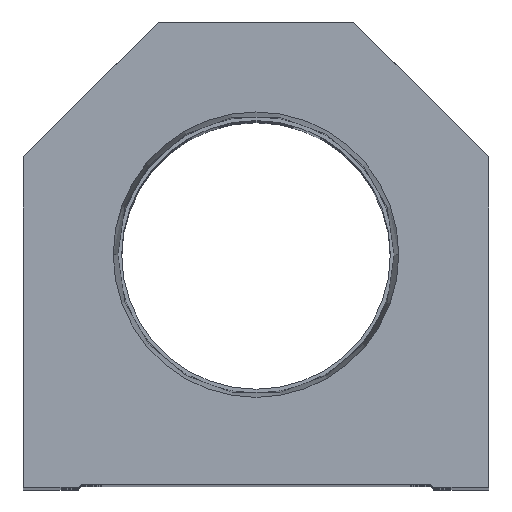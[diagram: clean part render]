
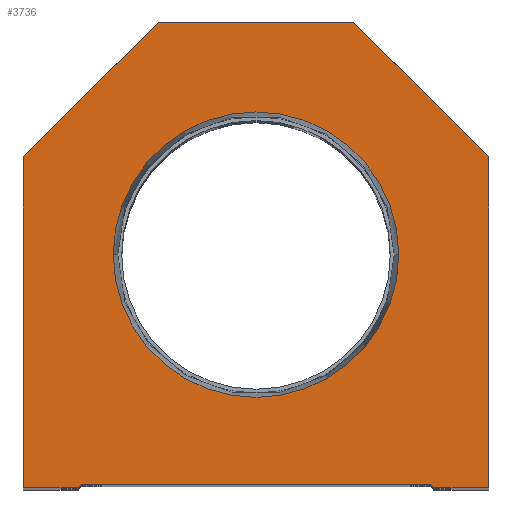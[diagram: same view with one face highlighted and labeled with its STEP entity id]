
A CAD part, top view. The second image highlights one B-rep face of the part: STEP entity #3736.
In plain terms, the highlighted planar face has unit normal (0, 0, 1).
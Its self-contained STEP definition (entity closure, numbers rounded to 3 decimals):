
#83 = DIRECTION ( 'NONE',  ( -0.707, -0.707, 0. ) ) ;
#190 = CARTESIAN_POINT ( 'NONE',  ( -38.1, 54.1, 0. ) ) ;
#312 = VERTEX_POINT ( 'NONE', #13020 ) ;
#553 = ORIENTED_EDGE ( 'NONE', *, *, #2733, .T. ) ;
#598 = VECTOR ( 'NONE', #7609, 1000. ) ;
#730 = CARTESIAN_POINT ( 'NONE',  ( 14.55, 14.55, 0. ) ) ;
#888 = CARTESIAN_POINT ( 'NONE',  ( -38.1, 0., 0. ) ) ;
#1068 = VERTEX_POINT ( 'NONE', #19259 ) ;
#1266 = LINE ( 'NONE', #888, #8260 ) ;
#1469 = VECTOR ( 'NONE', #83, 1000. ) ;
#1580 = VERTEX_POINT ( 'NONE', #6462 ) ;
#1726 = CARTESIAN_POINT ( 'NONE',  ( -14.55, 14.55, 0. ) ) ;
#1828 = ORIENTED_EDGE ( 'NONE', *, *, #2188, .T. ) ;
#1867 = ORIENTED_EDGE ( 'NONE', *, *, #5581, .T. ) ;
#2136 = EDGE_CURVE ( 'NONE', #17274, #4919, #8766, .T. ) ;
#2145 = DIRECTION ( 'NONE',  ( 0., 0., 1. ) ) ;
#2188 = EDGE_CURVE ( 'NONE', #1580, #5942, #9345, .T. ) ;
#2329 = VERTEX_POINT ( 'NONE', #17555 ) ;
#2536 = VERTEX_POINT ( 'NONE', #10065 ) ;
#2733 = EDGE_CURVE ( 'NONE', #312, #12167, #10789, .T. ) ;
#3170 = VECTOR ( 'NONE', #8769, 1000. ) ;
#3413 = LINE ( 'NONE', #730, #8371 ) ;
#3439 = DIRECTION ( 'NONE',  ( 1., 0., 0. ) ) ;
#3736 = ADVANCED_FACE ( 'NONE', ( #9024, #18034 ), #15167, .T. ) ;
#3786 = LINE ( 'NONE', #3887, #10235 ) ;
#3840 = EDGE_CURVE ( 'NONE', #6128, #1068, #11019, .T. ) ;
#3841 = CARTESIAN_POINT ( 'NONE',  ( 0., 38.1, 0. ) ) ;
#3887 = CARTESIAN_POINT ( 'NONE',  ( 16., 76.2, 0. ) ) ;
#4805 = EDGE_CURVE ( 'NONE', #12167, #17720, #10605, .T. ) ;
#4919 = VERTEX_POINT ( 'NONE', #19309 ) ;
#5479 = LINE ( 'NONE', #7162, #3170 ) ;
#5581 = EDGE_CURVE ( 'NONE', #5942, #2536, #1266, .T. ) ;
#5649 = DIRECTION ( 'NONE',  ( 1., 0., 0. ) ) ;
#5942 = VERTEX_POINT ( 'NONE', #17984 ) ;
#6128 = VERTEX_POINT ( 'NONE', #10863 ) ;
#6263 = EDGE_CURVE ( 'NONE', #1068, #17274, #5479, .T. ) ;
#6436 = DIRECTION ( 'NONE',  ( 1., 0., 0. ) ) ;
#6462 = CARTESIAN_POINT ( 'NONE',  ( -16., 76.2, 0. ) ) ;
#6639 = ORIENTED_EDGE ( 'NONE', *, *, #4805, .T. ) ;
#6815 = ORIENTED_EDGE ( 'NONE', *, *, #8197, .T. ) ;
#7162 = CARTESIAN_POINT ( 'NONE',  ( 38.1, 0., 0. ) ) ;
#7609 = DIRECTION ( 'NONE',  ( 1., 0., 0. ) ) ;
#7622 = DIRECTION ( 'NONE',  ( 0., 0., 1. ) ) ;
#8154 = DIRECTION ( 'NONE',  ( 1., 0., 0. ) ) ;
#8179 = VECTOR ( 'NONE', #10256, 1000. ) ;
#8197 = EDGE_CURVE ( 'NONE', #17720, #6128, #3413, .T. ) ;
#8260 = VECTOR ( 'NONE', #13420, 1000. ) ;
#8293 = DIRECTION ( 'NONE',  ( -1., 0., 0. ) ) ;
#8371 = VECTOR ( 'NONE', #15828, 1000. ) ;
#8465 = ORIENTED_EDGE ( 'NONE', *, *, #15036, .T. ) ;
#8665 = CARTESIAN_POINT ( 'NONE',  ( 38.1, 54.1, 0. ) ) ;
#8698 = CIRCLE ( 'NONE', #19137, 23.374 ) ;
#8766 = LINE ( 'NONE', #8665, #8179 ) ;
#8769 = DIRECTION ( 'NONE',  ( 0., 1., 0. ) ) ;
#9023 = VECTOR ( 'NONE', #19616, 1000. ) ;
#9024 = FACE_BOUND ( 'NONE', #11015, .T. ) ;
#9106 = CARTESIAN_POINT ( 'NONE',  ( -28.6, 0.5, 0. ) ) ;
#9345 = LINE ( 'NONE', #190, #1469 ) ;
#9821 = VERTEX_POINT ( 'NONE', #13200 ) ;
#10065 = CARTESIAN_POINT ( 'NONE',  ( -38.1, 0., 0. ) ) ;
#10086 = CARTESIAN_POINT ( 'NONE',  ( -28.6, 0.5, 0. ) ) ;
#10235 = VECTOR ( 'NONE', #8293, 1000. ) ;
#10256 = DIRECTION ( 'NONE',  ( -0.707, 0.707, 0. ) ) ;
#10605 = LINE ( 'NONE', #9106, #598 ) ;
#10618 = CARTESIAN_POINT ( 'NONE',  ( 0., 0., 0. ) ) ;
#10789 = LINE ( 'NONE', #1726, #15751 ) ;
#10863 = CARTESIAN_POINT ( 'NONE',  ( 29.1, 0., 0. ) ) ;
#10997 = AXIS2_PLACEMENT_3D ( 'NONE', #17226, #2145, #6436 ) ;
#11015 = EDGE_LOOP ( 'NONE', ( #12329, #16475 ) ) ;
#11019 = LINE ( 'NONE', #11118, #13283 ) ;
#11112 = ORIENTED_EDGE ( 'NONE', *, *, #6263, .T. ) ;
#11118 = CARTESIAN_POINT ( 'NONE',  ( 28.6, 0., 0. ) ) ;
#11306 = ORIENTED_EDGE ( 'NONE', *, *, #17954, .T. ) ;
#12167 = VERTEX_POINT ( 'NONE', #10086 ) ;
#12189 = LINE ( 'NONE', #15339, #9023 ) ;
#12329 = ORIENTED_EDGE ( 'NONE', *, *, #17588, .F. ) ;
#12887 = CARTESIAN_POINT ( 'NONE',  ( 28.6, 0.5, 0. ) ) ;
#13020 = CARTESIAN_POINT ( 'NONE',  ( -29.1, 0., 0. ) ) ;
#13200 = CARTESIAN_POINT ( 'NONE',  ( -23.374, 38.1, 0. ) ) ;
#13283 = VECTOR ( 'NONE', #3439, 1000. ) ;
#13420 = DIRECTION ( 'NONE',  ( 0., -1., 0. ) ) ;
#14544 = ORIENTED_EDGE ( 'NONE', *, *, #3840, .T. ) ;
#15036 = EDGE_CURVE ( 'NONE', #4919, #1580, #3786, .T. ) ;
#15167 = PLANE ( 'NONE',  #19596 ) ;
#15339 = CARTESIAN_POINT ( 'NONE',  ( -28.6, 0., 0. ) ) ;
#15751 = VECTOR ( 'NONE', #18210, 1000. ) ;
#15792 = CARTESIAN_POINT ( 'NONE',  ( 38.1, 54.1, 0. ) ) ;
#15828 = DIRECTION ( 'NONE',  ( 0.707, -0.707, 0. ) ) ;
#15961 = DIRECTION ( 'NONE',  ( 0., 0., 1. ) ) ;
#16369 = ORIENTED_EDGE ( 'NONE', *, *, #2136, .T. ) ;
#16475 = ORIENTED_EDGE ( 'NONE', *, *, #19424, .F. ) ;
#17226 = CARTESIAN_POINT ( 'NONE',  ( 0., 38.1, 0. ) ) ;
#17274 = VERTEX_POINT ( 'NONE', #15792 ) ;
#17555 = CARTESIAN_POINT ( 'NONE',  ( 23.374, 38.1, 0. ) ) ;
#17588 = EDGE_CURVE ( 'NONE', #2329, #9821, #8698, .T. ) ;
#17720 = VERTEX_POINT ( 'NONE', #12887 ) ;
#17954 = EDGE_CURVE ( 'NONE', #2536, #312, #12189, .T. ) ;
#17984 = CARTESIAN_POINT ( 'NONE',  ( -38.1, 54.1, 0. ) ) ;
#18034 = FACE_OUTER_BOUND ( 'NONE', #19254, .T. ) ;
#18210 = DIRECTION ( 'NONE',  ( 0.707, 0.707, 0. ) ) ;
#19137 = AXIS2_PLACEMENT_3D ( 'NONE', #3841, #15961, #8154 ) ;
#19254 = EDGE_LOOP ( 'NONE', ( #11306, #553, #6639, #6815, #14544, #11112, #16369, #8465, #1828, #1867 ) ) ;
#19259 = CARTESIAN_POINT ( 'NONE',  ( 38.1, 0., 0. ) ) ;
#19309 = CARTESIAN_POINT ( 'NONE',  ( 16., 76.2, 0. ) ) ;
#19424 = EDGE_CURVE ( 'NONE', #9821, #2329, #19531, .T. ) ;
#19531 = CIRCLE ( 'NONE', #10997, 23.374 ) ;
#19596 = AXIS2_PLACEMENT_3D ( 'NONE', #10618, #7622, #5649 ) ;
#19616 = DIRECTION ( 'NONE',  ( 1., 0., 0. ) ) ;
